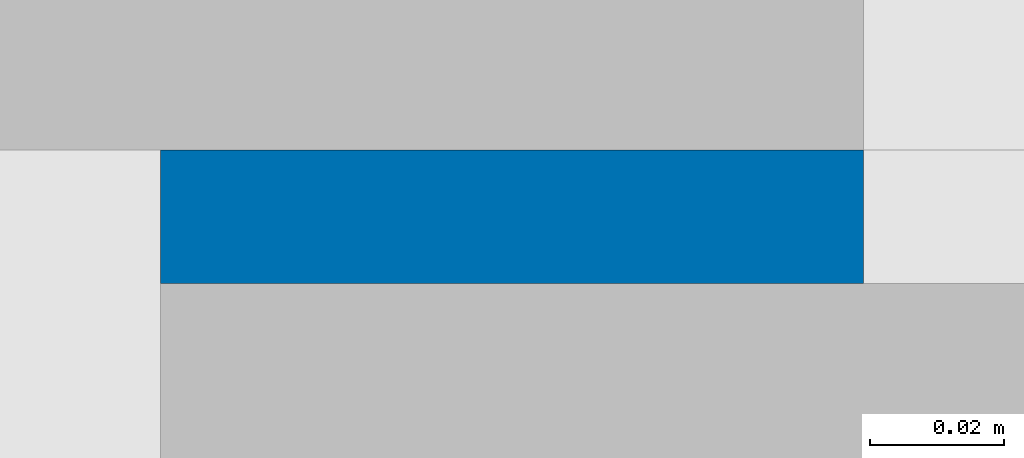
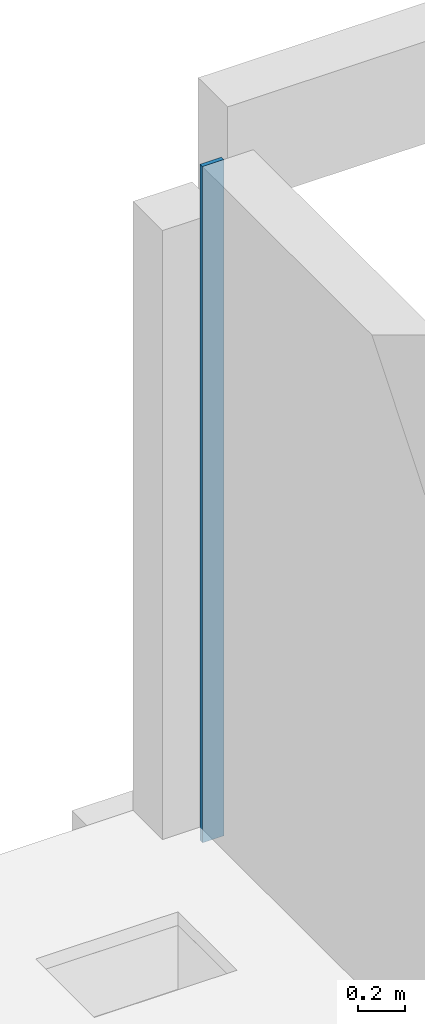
# One storey, part 43 of 60: 1 wall.
"""IFC2X3 building model written with IfcOpenShell, lengths in millimetres."""

from ifc_helpers import new_model, entity, si_unit, converted_unit, derived_unit, direction, frame, frame_2d, origin, place, context, subcontext, project, spatial, rectangle, extrude, material, layer, layer_set, layer_usage, type_object, element, save


model = new_model("IFC2X3")

# Units and contexts
model_context = context("Model", 3, precision=0.01, world=origin(), true_north=direction((6.12303176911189e-17, 1.0)))
body_context = subcontext(model_context, "Body", "Model", "MODEL_VIEW")
ifc_project = project(units=[si_unit("LENGTHUNIT", "METRE", prefix="MILLI"), si_unit("AREAUNIT", "SQUARE_METRE"), si_unit("VOLUMEUNIT", "CUBIC_METRE"), converted_unit("PLANEANGLEUNIT", "DEGREE", entity("IfcRatioMeasure", 0.0174532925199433), si_unit("PLANEANGLEUNIT", "RADIAN"), dimensions=[0, 0, 0, 0, 0, 0, 0]), si_unit("MASSUNIT", "GRAM", prefix="KILO"), derived_unit("MASSDENSITYUNIT", [(si_unit("MASSUNIT", "GRAM", prefix="KILO"), 1), (si_unit("LENGTHUNIT", "METRE"), -3)]), si_unit("TIMEUNIT", "SECOND"), si_unit("FREQUENCYUNIT", "HERTZ"), si_unit("THERMODYNAMICTEMPERATUREUNIT", "DEGREE_CELSIUS"), derived_unit("THERMALTRANSMITTANCEUNIT", [(si_unit("MASSUNIT", "GRAM", prefix="KILO"), 1), (si_unit("THERMODYNAMICTEMPERATUREUNIT", "KELVIN"), -1), (si_unit("TIMEUNIT", "SECOND"), -3)]), derived_unit("VOLUMETRICFLOWRATEUNIT", [(si_unit("LENGTHUNIT", "METRE"), 3), (si_unit("TIMEUNIT", "SECOND"), -1)]), si_unit("ELECTRICCURRENTUNIT", "AMPERE"), si_unit("ELECTRICVOLTAGEUNIT", "VOLT"), si_unit("POWERUNIT", "WATT"), si_unit("FORCEUNIT", "NEWTON", prefix="KILO"), si_unit("ILLUMINANCEUNIT", "LUX"), si_unit("LUMINOUSFLUXUNIT", "LUMEN"), si_unit("LUMINOUSINTENSITYUNIT", "CANDELA"), derived_unit("USERDEFINED", [(si_unit("MASSUNIT", "GRAM", prefix="KILO"), -1), (si_unit("LENGTHUNIT", "METRE"), -2), (si_unit("TIMEUNIT", "SECOND"), 3), (si_unit("LUMINOUSFLUXUNIT", "LUMEN"), 1)]), derived_unit("LINEARVELOCITYUNIT", [(si_unit("LENGTHUNIT", "METRE"), 1), (si_unit("TIMEUNIT", "SECOND"), -1)]), si_unit("PRESSUREUNIT", "PASCAL"), derived_unit("USERDEFINED", [(si_unit("LENGTHUNIT", "METRE"), -2), (si_unit("MASSUNIT", "GRAM", prefix="KILO"), 1), (si_unit("TIMEUNIT", "SECOND"), -2)])], contexts=[model_context])

# Site, building, storey
site_placement = place(None, origin())
site = spatial("IfcSite", under=ifc_project, at=site_placement, Name="Default", CompositionType="ELEMENT")
building_placement = place(site_placement, origin())
building = spatial("IfcBuilding", under=site, at=building_placement, Name="niet gebruiken", CompositionType="ELEMENT")
storey_placement = place(building_placement, origin())
storey = spatial("IfcBuildingStorey", under=building, at=storey_placement, Name="00 begane grond", CompositionType="ELEMENT", Elevation=0.0)

# Wall
ifc_material = material(Name="NLRS_f2_beton ihwg")
ifc_layer = layer(ifc_material, 105.0)
ifc_layer_set = layer_set([ifc_layer], Name="Basic Wall:NLRS_22.21_WA_beton ihwg d=105_gen")
ifc_layer_usage = layer_usage(ifc_layer_set, "AXIS2", "NEGATIVE", 52.5)
wall_type = type_object("IfcWallType", Name="Basic Wall:NLRS_22.21_WA_beton ihwg d=105_gen", PredefinedType="STANDARD", material=ifc_layer_set)
wall_placement = place(storey_placement, frame((59327.4999999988, 53006.0, -160.0), z_axis=(0.0, 0.0, 1.0), x_axis=(0.0, -1.0, 0.0)))
element("IfcWallStandardCase", 1, at=wall_placement, inside=storey, type_object=wall_type, material=ifc_layer_usage, Name="Basic Wall:NLRS_22.21_WA_beton ihwg d=105_gen", ObjectType="Basic Wall:NLRS_22.21_WA_beton ihwg d=105_gen", context=body_context, shape_type="SweptSolid", body=[
    extrude(rectangle(XDim=20.0000000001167, YDim=104.999999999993, at=frame_2d((10.0000000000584, 0.0), x_axis=(-1.0, 0.0))), origin(), (0.0, 0.0, 1.0), 3510.00000000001),
])

save(model, "model.ifc")
